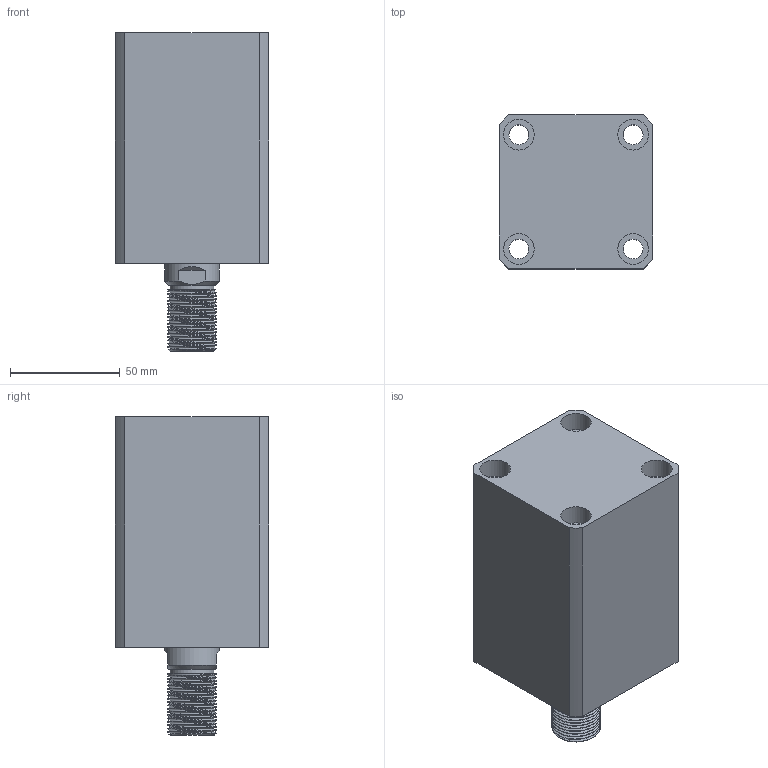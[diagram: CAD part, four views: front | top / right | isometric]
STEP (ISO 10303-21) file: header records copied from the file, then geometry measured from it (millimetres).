
FILE_DESCRIPTION(/* description */ (''),/* implementation_level */ '2;1');
FILE_NAME(/* name */ 'CHTB-sd40x50w.stp',/* time_stamp */ '2022-04-29T17:41:09+08:00',/* author */ (''),/* organization */ (''),/* preprocessor_version */ 'ST-DEVELOPER v16.7',/* originating_system */ 'SIEMENS PLM Software NX 12.0',/* authorisation */ '');
FILE_SCHEMA (('AUTOMOTIVE_DESIGN { 1 0 10303 214 3 1 1 1 }'));
Length unit declared in the file: millimetre
Products named in the file (1): CHTB-sd40x50w
Bounding box: 70 x 70 x 145 mm (x, y, z)
Volume: 447911.4 mm3; surface area: 90975.8 mm2
Topology: 3 solids, 4 shells, 447 faces, 1255 edges, 863 vertices
Faces by surface type: plane 290, extrusion 91, cylinder 40, torus 11, bspline 8, cone 7
Full cylindrical faces by diameter (mm): 4.2 x2, 5 x3, 9 x4, 10.7 x2, 14 x8, 20 x1, 25 x2, 29 x1, 34 x2, 40 x4, 45 x1
Entity records: 22277 total; most frequent: CARTESIAN_POINT 9092, ORIENTED_EDGE 2378, DIRECTION 1771, EDGE_CURVE 1189, VECTOR 883, VERTEX_POINT 848, LINE 792, EDGE_LOOP 557
